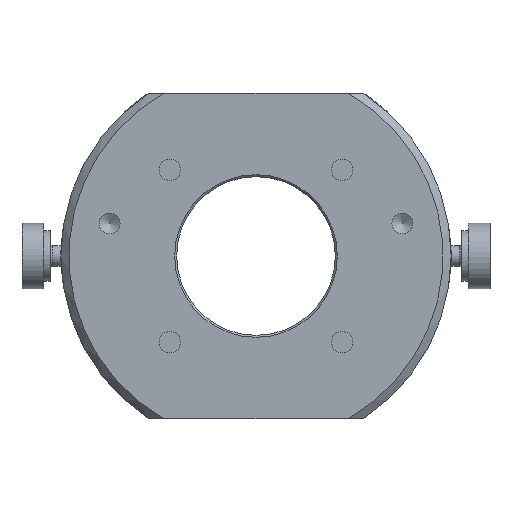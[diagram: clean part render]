
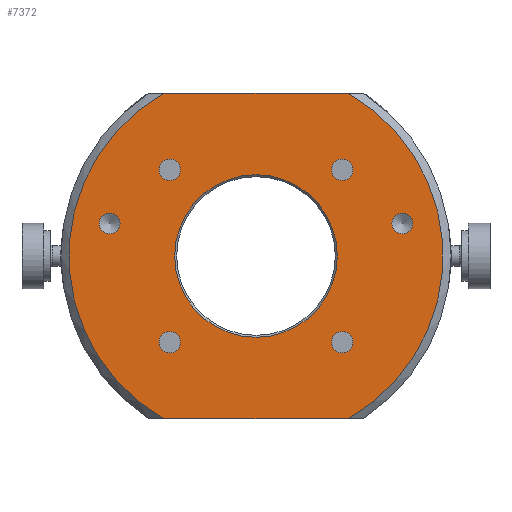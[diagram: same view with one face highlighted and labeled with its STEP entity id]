
A CAD part, front view. The second image highlights one B-rep face of the part: STEP entity #7372.
In plain terms, the highlighted planar face has unit normal (0, -1, 0).
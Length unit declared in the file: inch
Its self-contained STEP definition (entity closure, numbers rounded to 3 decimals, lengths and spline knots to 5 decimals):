
#103 = CARTESIAN_POINT ( 'NONE',  ( -0.66291, -1.14, -0.66291 ) ) ;
#252 = VERTEX_POINT ( 'NONE', #2460 ) ;
#292 = DIRECTION ( 'NONE',  ( 0., 0., -1. ) ) ;
#402 = CIRCLE ( 'NONE', #6967, 0.625 ) ;
#432 = DIRECTION ( 'NONE',  ( 0., 0., -1. ) ) ;
#456 = CARTESIAN_POINT ( 'NONE',  ( -0.71088, -1.14, -1.25 ) ) ;
#572 = CARTESIAN_POINT ( 'NONE',  ( -1.125, -1.14, 0.1705 ) ) ;
#655 = VERTEX_POINT ( 'NONE', #572 ) ;
#710 = CARTESIAN_POINT ( 'NONE',  ( 0.71088, -1.14, 1.25 ) ) ;
#744 = VERTEX_POINT ( 'NONE', #6261 ) ;
#1071 = DIRECTION ( 'NONE',  ( -1., 0., 0. ) ) ;
#1111 = DIRECTION ( 'NONE',  ( 0., 0., -1. ) ) ;
#1210 = CARTESIAN_POINT ( 'NONE',  ( 1.125, -1.14, 0.25 ) ) ;
#1241 = DIRECTION ( 'NONE',  ( 0., 0., 1. ) ) ;
#1244 = EDGE_CURVE ( 'NONE', #6873, #6873, #2134, .T. ) ;
#1325 = FACE_BOUND ( 'NONE', #6353, .T. ) ;
#1453 = EDGE_CURVE ( 'NONE', #7642, #7642, #2686, .T. ) ;
#1722 = EDGE_LOOP ( 'NONE', ( #5589 ) ) ;
#1729 = VERTEX_POINT ( 'NONE', #710 ) ;
#1758 = CARTESIAN_POINT ( 'NONE',  ( 0.66291, -1.14, -0.66291 ) ) ;
#1771 = EDGE_CURVE ( 'NONE', #6225, #6225, #8289, .T. ) ;
#1780 = CARTESIAN_POINT ( 'NONE',  ( 0.66291, -1.14, -0.74559 ) ) ;
#1784 = CIRCLE ( 'NONE', #2318, 1.438 ) ;
#1809 = DIRECTION ( 'NONE',  ( 1., 0., 0. ) ) ;
#1811 = DIRECTION ( 'NONE',  ( 0., 0., 1. ) ) ;
#1890 = DIRECTION ( 'NONE',  ( 0., 1., 0. ) ) ;
#1952 = EDGE_CURVE ( 'NONE', #3291, #252, #4506, .T. ) ;
#2003 = FACE_BOUND ( 'NONE', #1722, .T. ) ;
#2134 = CIRCLE ( 'NONE', #2949, 0.08268 ) ;
#2268 = CARTESIAN_POINT ( 'NONE',  ( -0.82916, -1.14, 1.25 ) ) ;
#2308 = EDGE_CURVE ( 'NONE', #1729, #744, #7549, .T. ) ;
#2318 = AXIS2_PLACEMENT_3D ( 'NONE', #7673, #4779, #1811 ) ;
#2347 = EDGE_CURVE ( 'NONE', #4429, #4429, #2700, .T. ) ;
#2431 = CARTESIAN_POINT ( 'NONE',  ( 0., -1.14, 0. ) ) ;
#2460 = CARTESIAN_POINT ( 'NONE',  ( 0.71088, -1.14, -1.25 ) ) ;
#2618 = CARTESIAN_POINT ( 'NONE',  ( 0., -1.14, 0.625 ) ) ;
#2650 = CARTESIAN_POINT ( 'NONE',  ( 0., -1.14, 0. ) ) ;
#2676 = DIRECTION ( 'NONE',  ( 0., 0., -1. ) ) ;
#2686 = CIRCLE ( 'NONE', #3220, 0.08268 ) ;
#2700 = CIRCLE ( 'NONE', #3373, 0.08268 ) ;
#2727 = DIRECTION ( 'NONE',  ( 0., -1., 0. ) ) ;
#2863 = EDGE_LOOP ( 'NONE', ( #6005 ) ) ;
#2868 = CARTESIAN_POINT ( 'NONE',  ( 0.66291, -1.14, 0.66291 ) ) ;
#2877 = EDGE_LOOP ( 'NONE', ( #5148 ) ) ;
#2894 = ORIENTED_EDGE ( 'NONE', *, *, #8341, .T. ) ;
#2949 = AXIS2_PLACEMENT_3D ( 'NONE', #2868, #6164, #432 ) ;
#2953 = EDGE_CURVE ( 'NONE', #4510, #4510, #402, .T. ) ;
#3015 = EDGE_CURVE ( 'NONE', #655, #655, #8032, .T. ) ;
#3091 = CARTESIAN_POINT ( 'NONE',  ( -0.66291, -1.14, -0.74559 ) ) ;
#3161 = ORIENTED_EDGE ( 'NONE', *, *, #2308, .T. ) ;
#3171 = DIRECTION ( 'NONE',  ( 0., 0., -1. ) ) ;
#3182 = DIRECTION ( 'NONE',  ( 0., -1., 0. ) ) ;
#3201 = FACE_BOUND ( 'NONE', #2877, .T. ) ;
#3219 = CARTESIAN_POINT ( 'NONE',  ( -1.125, -1.14, 0.25 ) ) ;
#3220 = AXIS2_PLACEMENT_3D ( 'NONE', #5857, #5512, #292 ) ;
#3291 = VERTEX_POINT ( 'NONE', #456 ) ;
#3359 = ORIENTED_EDGE ( 'NONE', *, *, #1244, .F. ) ;
#3373 = AXIS2_PLACEMENT_3D ( 'NONE', #1758, #6859, #1111 ) ;
#3829 = CIRCLE ( 'NONE', #6848, 1.438 ) ;
#3831 = CARTESIAN_POINT ( 'NONE',  ( 0., -1.14, 0. ) ) ;
#3976 = FACE_BOUND ( 'NONE', #2863, .T. ) ;
#4080 = CIRCLE ( 'NONE', #5734, 0.0795 ) ;
#4429 = VERTEX_POINT ( 'NONE', #1780 ) ;
#4506 = LINE ( 'NONE', #5187, #5434 ) ;
#4510 = VERTEX_POINT ( 'NONE', #2618 ) ;
#4567 = EDGE_LOOP ( 'NONE', ( #6293 ) ) ;
#4779 = DIRECTION ( 'NONE',  ( 0., -1., 0. ) ) ;
#4977 = EDGE_CURVE ( 'NONE', #252, #1729, #1784, .T. ) ;
#5002 = DIRECTION ( 'NONE',  ( 0., -1., 0. ) ) ;
#5017 = CARTESIAN_POINT ( 'NONE',  ( 1.125, -1.14, 0.1705 ) ) ;
#5148 = ORIENTED_EDGE ( 'NONE', *, *, #7946, .F. ) ;
#5187 = CARTESIAN_POINT ( 'NONE',  ( -0.82916, -1.14, -1.25 ) ) ;
#5434 = VECTOR ( 'NONE', #1809, 39.37008 ) ;
#5512 = DIRECTION ( 'NONE',  ( 0., -1., 0. ) ) ;
#5574 = AXIS2_PLACEMENT_3D ( 'NONE', #2650, #1890, #1241 ) ;
#5589 = ORIENTED_EDGE ( 'NONE', *, *, #1771, .F. ) ;
#5619 = VERTEX_POINT ( 'NONE', #5017 ) ;
#5631 = CARTESIAN_POINT ( 'NONE',  ( -0.66291, -1.14, 0.58024 ) ) ;
#5700 = EDGE_LOOP ( 'NONE', ( #3359 ) ) ;
#5733 = DIRECTION ( 'NONE',  ( 0., 1., 0. ) ) ;
#5734 = AXIS2_PLACEMENT_3D ( 'NONE', #1210, #7708, #3171 ) ;
#5857 = CARTESIAN_POINT ( 'NONE',  ( -0.66291, -1.14, 0.66291 ) ) ;
#5953 = EDGE_LOOP ( 'NONE', ( #2894, #7103, #6552, #3161 ) ) ;
#6005 = ORIENTED_EDGE ( 'NONE', *, *, #2347, .F. ) ;
#6164 = DIRECTION ( 'NONE',  ( 0., -1., 0. ) ) ;
#6225 = VERTEX_POINT ( 'NONE', #3091 ) ;
#6261 = CARTESIAN_POINT ( 'NONE',  ( -0.71088, -1.14, 1.25 ) ) ;
#6293 = ORIENTED_EDGE ( 'NONE', *, *, #3015, .F. ) ;
#6353 = EDGE_LOOP ( 'NONE', ( #7445 ) ) ;
#6529 = VECTOR ( 'NONE', #1071, 39.37008 ) ;
#6551 = FACE_BOUND ( 'NONE', #4567, .T. ) ;
#6552 = ORIENTED_EDGE ( 'NONE', *, *, #4977, .T. ) ;
#6589 = PLANE ( 'NONE',  #5574 ) ;
#6684 = AXIS2_PLACEMENT_3D ( 'NONE', #3219, #5002, #7614 ) ;
#6830 = EDGE_LOOP ( 'NONE', ( #7420 ) ) ;
#6848 = AXIS2_PLACEMENT_3D ( 'NONE', #3831, #3182, #8438 ) ;
#6859 = DIRECTION ( 'NONE',  ( 0., -1., 0. ) ) ;
#6873 = VERTEX_POINT ( 'NONE', #8270 ) ;
#6967 = AXIS2_PLACEMENT_3D ( 'NONE', #2431, #5733, #7690 ) ;
#7103 = ORIENTED_EDGE ( 'NONE', *, *, #1952, .T. ) ;
#7279 = FACE_BOUND ( 'NONE', #6830, .T. ) ;
#7372 = ADVANCED_FACE ( 'NONE', ( #3201, #6551, #7279, #2003, #3976, #7740, #1325, #7781 ), #6589, .F. ) ;
#7420 = ORIENTED_EDGE ( 'NONE', *, *, #1453, .F. ) ;
#7445 = ORIENTED_EDGE ( 'NONE', *, *, #2953, .T. ) ;
#7486 = AXIS2_PLACEMENT_3D ( 'NONE', #103, #2727, #2676 ) ;
#7549 = LINE ( 'NONE', #2268, #6529 ) ;
#7614 = DIRECTION ( 'NONE',  ( 0., 0., -1. ) ) ;
#7642 = VERTEX_POINT ( 'NONE', #5631 ) ;
#7673 = CARTESIAN_POINT ( 'NONE',  ( 0., -1.14, 0. ) ) ;
#7690 = DIRECTION ( 'NONE',  ( 0., 0., 1. ) ) ;
#7708 = DIRECTION ( 'NONE',  ( 0., -1., 0. ) ) ;
#7740 = FACE_BOUND ( 'NONE', #5700, .T. ) ;
#7781 = FACE_OUTER_BOUND ( 'NONE', #5953, .T. ) ;
#7946 = EDGE_CURVE ( 'NONE', #5619, #5619, #4080, .T. ) ;
#8032 = CIRCLE ( 'NONE', #6684, 0.0795 ) ;
#8270 = CARTESIAN_POINT ( 'NONE',  ( 0.66291, -1.14, 0.58024 ) ) ;
#8289 = CIRCLE ( 'NONE', #7486, 0.08268 ) ;
#8341 = EDGE_CURVE ( 'NONE', #744, #3291, #3829, .T. ) ;
#8438 = DIRECTION ( 'NONE',  ( 0., 0., 1. ) ) ;
